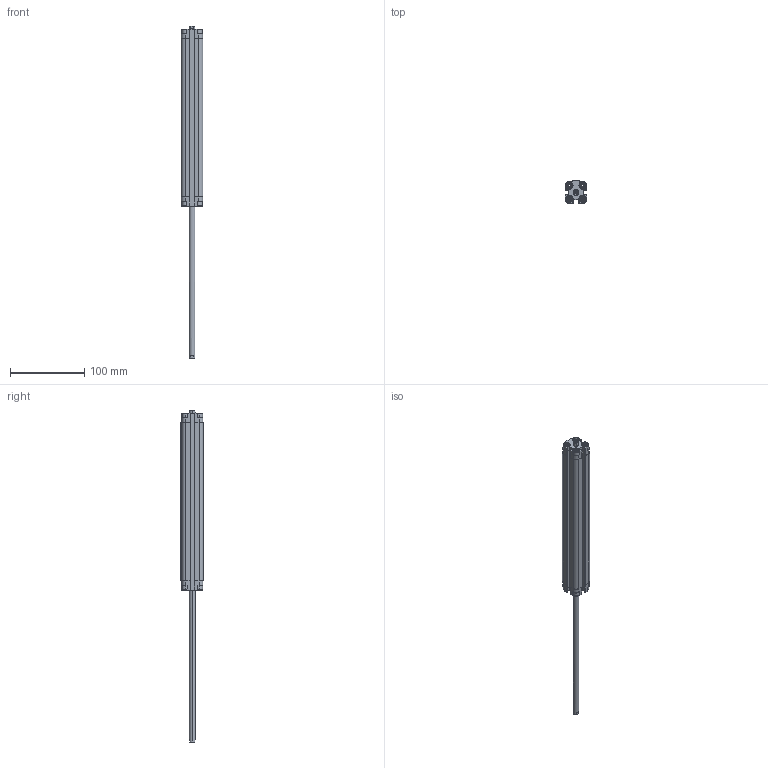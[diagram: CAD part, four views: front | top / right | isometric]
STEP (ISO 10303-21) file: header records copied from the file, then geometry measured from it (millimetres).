
FILE_DESCRIPTION (( 'STEP AP203' ), '1' );
FILE_NAME ('CDVU16-200F-P.STEP', '2020-07-24T18:06:15', ( '' ), ( '' ), 'SwSTEP 2.0', 'SolidWorks 2019', '' );
FILE_SCHEMA (( 'CONFIG_CONTROL_DESIGN' ));
Length unit declared in the file: millimetre
Products named in the file (1): CDVU16-200F-P
Bounding box: 29 x 30 x 447 mm (x, y, z)
Volume: 127052.7 mm3; surface area: 78157 mm2
Topology: 2 solids, 2 shells, 566 faces, 1508 edges, 980 vertices
Faces by surface type: plane 338, cylinder 164, cone 48, torus 16
Entity records: 17779 total; most frequent: CARTESIAN_POINT 3623, ORIENTED_EDGE 3000, DIRECTION 2850, EDGE_CURVE 1500, VERTEX_POINT 980, AXIS2_PLACEMENT_3D 975, VECTOR 900, LINE 900
